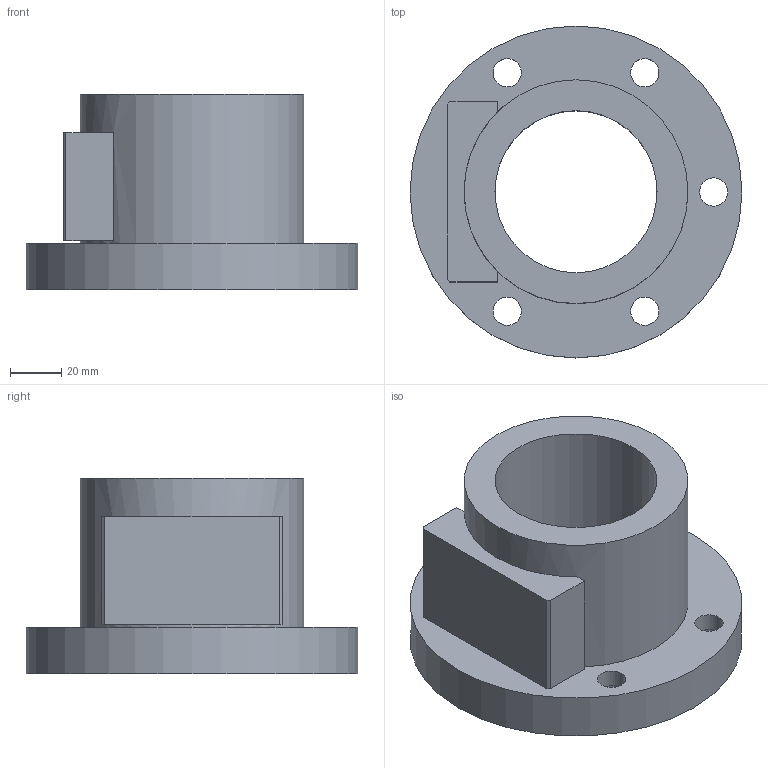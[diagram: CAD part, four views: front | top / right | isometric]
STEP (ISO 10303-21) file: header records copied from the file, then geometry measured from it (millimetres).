
FILE_DESCRIPTION(/* description */ (''),/* implementation_level */ '2;1');
FILE_NAME(/* name */ '63-8A2',/* time_stamp */ '2006-07-31T11:59:15+08:00',/* author */ (''),/* organization */ (''),/* preprocessor_version */ 'ST-DEVELOPER v9',/* originating_system */ 'UGS - NX 4.0',/* authorisation */ '');
FILE_SCHEMA (('CONFIG_CONTROL_DESIGN'));
Length unit declared in the file: millimetre
Products named in the file (1): 63-8A2
Bounding box: 129 x 129 x 76 mm (x, y, z)
Volume: 360515.9 mm3; surface area: 64956.1 mm2
Topology: 1 solids, 1 shells, 30 faces, 67 edges, 46 vertices
Faces by surface type: plane 17, cylinder 13
Full cylindrical faces by diameter (mm): 11 x5, 17.5 x5, 63 x1, 87 x1, 129 x1
Entity records: 860 total; most frequent: DIRECTION 140, CARTESIAN_POINT 123, ORIENTED_EDGE 100, EDGE_LOOP 62, AXIS2_PLACEMENT_3D 59, EDGE_CURVE 50, FACE_BOUND 45, VERTEX_POINT 42
